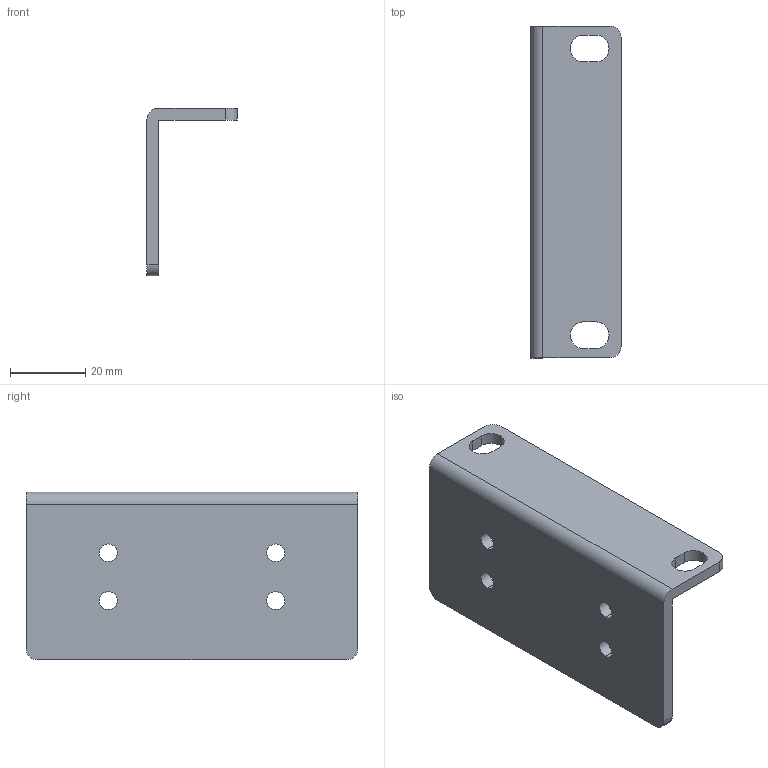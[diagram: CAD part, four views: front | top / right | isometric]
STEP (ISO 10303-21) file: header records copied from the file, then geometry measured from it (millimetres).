
FILE_DESCRIPTION((''),'2;1');
FILE_NAME('2602-355','2014-04-22T',('jpeters'),('Keithley Instruments, Inc'),'PRO/ENGINEER BY PARAMETRIC TECHNOLOGY CORPORATION, 2012480','PRO/ENGINEER BY PARAMETRIC TECHNOLOGY CORPORATION, 2012480','');
FILE_SCHEMA(('CONFIG_CONTROL_DESIGN'));
Length unit declared in the file: inch
Products named in the file (1): 2602-355
Bounding box: 24 x 88.14 x 44.58 mm (x, y, z)
Volume: 17463.8 mm3; surface area: 12327.1 mm2
Topology: 1 solids, 1 shells, 29 faces, 81 edges, 54 vertices
Faces by surface type: cylinder 17, plane 12
Entity records: 1013 total; most frequent: DIRECTION 173, CARTESIAN_POINT 164, ORIENTED_EDGE 162, EDGE_CURVE 81, AXIS2_PLACEMENT_3D 63, VERTEX_POINT 54, VECTOR 47, LINE 47
